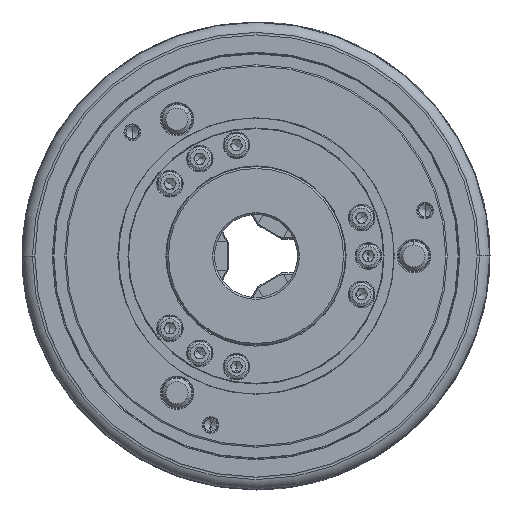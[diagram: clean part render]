
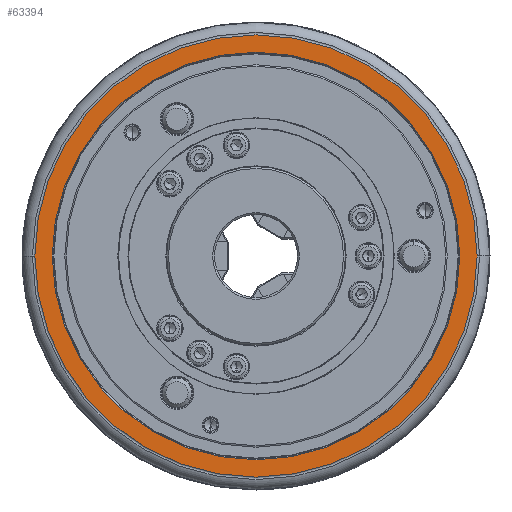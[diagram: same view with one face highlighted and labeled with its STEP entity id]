
A CAD part, left-side view. The second image highlights one B-rep face of the part: STEP entity #63394.
In plain terms, the highlighted planar face has unit normal (-1, 0, 0).
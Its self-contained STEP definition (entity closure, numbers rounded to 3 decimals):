
#3877 = CARTESIAN_POINT ( 'NONE',  ( -100., 0., 0. ) ) ;
#8827 = EDGE_LOOP ( 'NONE', ( #88070, #71198 ) ) ;
#10068 = CARTESIAN_POINT ( 'NONE',  ( -100., -120., 0. ) ) ;
#13888 = AXIS2_PLACEMENT_3D ( 'NONE', #24007, #77606, #54497 ) ;
#15629 = FACE_OUTER_BOUND ( 'NONE', #8827, .T. ) ;
#19011 = CARTESIAN_POINT ( 'NONE',  ( -100., 0., 0. ) ) ;
#23037 = FACE_BOUND ( 'NONE', #62298, .T. ) ;
#24007 = CARTESIAN_POINT ( 'NONE',  ( -100., 0., 0. ) ) ;
#26471 = EDGE_CURVE ( 'NONE', #96671, #30948, #38089, .T. ) ;
#28692 = DIRECTION ( 'NONE',  ( 1., 0., 0. ) ) ;
#28894 = CARTESIAN_POINT ( 'NONE',  ( -100., 0., 110.6 ) ) ;
#30633 = AXIS2_PLACEMENT_3D ( 'NONE', #66066, #28692, #58695 ) ;
#30948 = VERTEX_POINT ( 'NONE', #28894 ) ;
#36636 = CIRCLE ( 'NONE', #93149, 120. ) ;
#38089 = CIRCLE ( 'NONE', #42758, 110.6 ) ;
#38895 = AXIS2_PLACEMENT_3D ( 'NONE', #61376, #45683, #90446 ) ;
#40540 = ORIENTED_EDGE ( 'NONE', *, *, #26471, .T. ) ;
#41076 = EDGE_CURVE ( 'NONE', #61307, #50551, #36636, .T. ) ;
#42758 = AXIS2_PLACEMENT_3D ( 'NONE', #19011, #93354, #77605 ) ;
#45683 = DIRECTION ( 'NONE',  ( -1., 0., 0. ) ) ;
#50551 = VERTEX_POINT ( 'NONE', #10068 ) ;
#54497 = DIRECTION ( 'NONE',  ( 0., 1., 0. ) ) ;
#56034 = DIRECTION ( 'NONE',  ( 0., 1., 0. ) ) ;
#58194 = CARTESIAN_POINT ( 'NONE',  ( -100., 120., 0. ) ) ;
#58695 = DIRECTION ( 'NONE',  ( 0., 0., -1. ) ) ;
#58944 = EDGE_CURVE ( 'NONE', #30948, #96671, #73010, .T. ) ;
#61307 = VERTEX_POINT ( 'NONE', #58194 ) ;
#61376 = CARTESIAN_POINT ( 'NONE',  ( -100., 55.3, -95.782 ) ) ;
#62298 = EDGE_LOOP ( 'NONE', ( #92968, #40540 ) ) ;
#63394 = ADVANCED_FACE ( 'NONE', ( #15629, #23037 ), #89469, .T. ) ;
#66066 = CARTESIAN_POINT ( 'NONE',  ( -100., 0., 0. ) ) ;
#68865 = CIRCLE ( 'NONE', #13888, 120. ) ;
#71198 = ORIENTED_EDGE ( 'NONE', *, *, #77937, .F. ) ;
#73010 = CIRCLE ( 'NONE', #30633, 110.6 ) ;
#77605 = DIRECTION ( 'NONE',  ( 0., 0., -1. ) ) ;
#77606 = DIRECTION ( 'NONE',  ( 1., 0., 0. ) ) ;
#77937 = EDGE_CURVE ( 'NONE', #50551, #61307, #68865, .T. ) ;
#79002 = CARTESIAN_POINT ( 'NONE',  ( -100., 0., -110.6 ) ) ;
#85571 = DIRECTION ( 'NONE',  ( 1., 0., 0. ) ) ;
#88070 = ORIENTED_EDGE ( 'NONE', *, *, #41076, .F. ) ;
#89469 = PLANE ( 'NONE',  #38895 ) ;
#90446 = DIRECTION ( 'NONE',  ( 0., 0., 1. ) ) ;
#92968 = ORIENTED_EDGE ( 'NONE', *, *, #58944, .T. ) ;
#93149 = AXIS2_PLACEMENT_3D ( 'NONE', #3877, #85571, #56034 ) ;
#93354 = DIRECTION ( 'NONE',  ( 1., 0., 0. ) ) ;
#96671 = VERTEX_POINT ( 'NONE', #79002 ) ;
